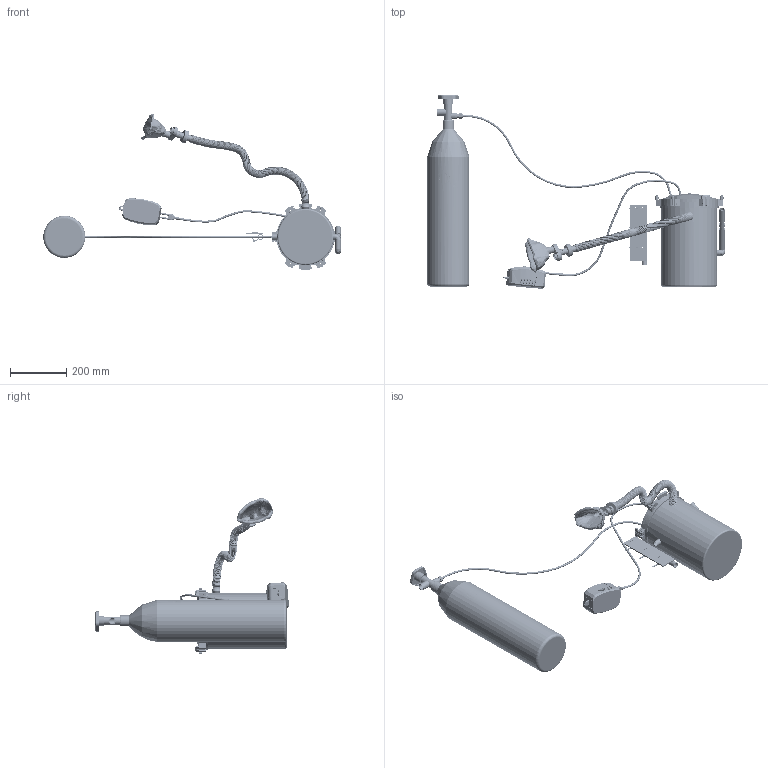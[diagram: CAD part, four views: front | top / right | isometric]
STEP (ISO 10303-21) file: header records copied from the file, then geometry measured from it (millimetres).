
FILE_DESCRIPTION(/* description */ (''),/* implementation_level */ '2;1');
FILE_NAME(/* name */ 'C:\Users\user\Documents\Inventor\Home Ventilator CPAP\Home Ventilator CPAP Final.stp',/* time_stamp */ '2020-04-03T17:05:35+02:00',/* author */ ('user'),/* organization */ (''),/* preprocessor_version */ 'ST-DEVELOPER v16.5',/* originating_system */ 'Autodesk Inventor 2017',/* authorisation */ '');
FILE_SCHEMA (('AUTOMOTIVE_DESIGN { 1 0 10303 214 3 1 1 }'));
Length unit declared in the file: millimetre
Products named in the file (33): Home Ventilator CPAP 02; Water container 02; Rubber ring; Cap for container 02; Pipe conector; Toggle; Shaft; Oxygen hose; Oxygen bottle; Rib hose for mask; hose for mask; Ring for hose; Inline valve; air pump aquarium; Mask; medical mask; BODY VALVE; flap; BODY VALVE 1; Air pump hose; Water in pot; Valve NEW; ball; bracket; rubber seal; Syringe; interrupt; Ring valve; Pipe for valve; Manometer; Ruler; Tube; ziptie
Assembly tree (226 placements, depth 3):
  Home Ventilator CPAP 02
    Water container 02
    Rubber ring
    Cap for container 02
    Pipe conector  x2
    Toggle  x6
    Shaft  x6
    Oxygen hose
    Oxygen bottle
    Rib hose for mask
      hose for mask
      Ring for hose  x180
    Inline valve
    air pump aquarium
    Mask
      medical mask
      BODY VALVE
      flap
      BODY VALVE 1
    Air pump hose
    Water in pot
    Valve NEW
      ball
      bracket
      rubber seal
      Syringe
      Tube  x2
      interrupt
      Ring valve
    Pipe for valve
    Manometer
      Ruler
      Tube
      ziptie  x3
Bounding box: 1059.89 x 688.67 x 554.33 mm (x, y, z)
Volume: 4755506.3 mm3; surface area: 1820169.4 mm2
Topology: 223 solids, 338 shells, 3729 faces, 7732 edges, 5017 vertices
Faces by surface type: plane 1480, cylinder 737, cone 736, torus 456, bspline 277, sphere 43
Full cylindrical faces by diameter (mm): 3 x2, 4 x30, 4.4 x2, 5 x2, 6 x10, 7 x1, 7.2 x2, 7.25 x2, 8 x11, 9.6 x1, 11 x1, 12.7 x3, 12.93 x2, 13 x6, 14 x2, 17 x7, 17.292 x1, 18 x3, 19.718 x2, 20 x8, 20.562 x1, 22 x1, 22.118 x2, 23 x3, 23.292 x1, 23.4 x180, 23.422 x180, 24.824 x1, 25.4 x5, 26 x1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
Entity records: 85133 total; most frequent: CARTESIAN_POINT 50940, ORIENTED_EDGE 6228, DIRECTION 6166, EDGE_CURVE 3412, VERTEX_POINT 2519, AXIS2_PLACEMENT_3D 2182, LINE 1802, VECTOR 1802
